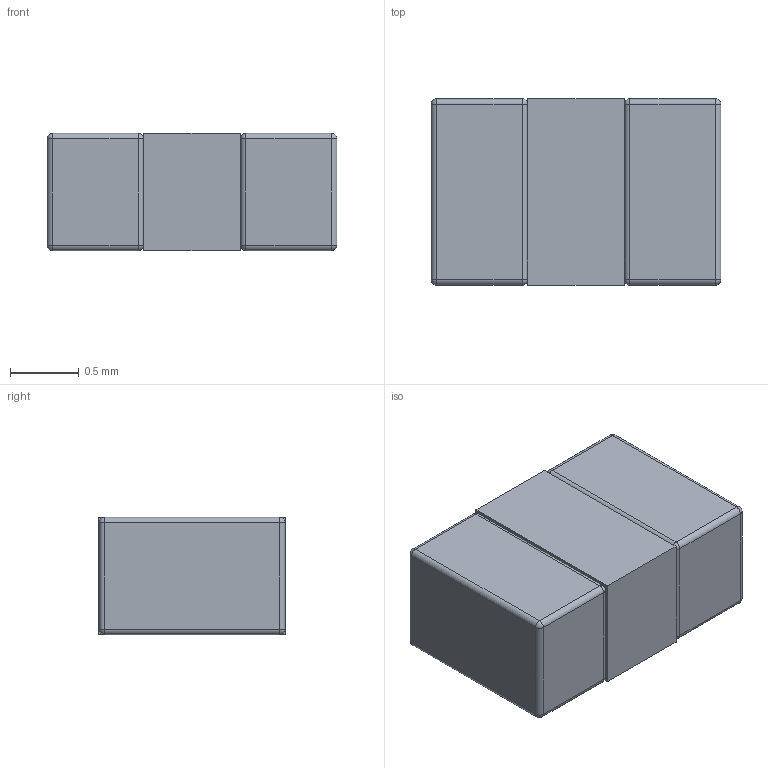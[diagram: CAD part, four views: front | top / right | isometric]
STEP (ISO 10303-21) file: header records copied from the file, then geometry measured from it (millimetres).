
FILE_DESCRIPTION(/* description */ (''),/* implementation_level */ '2;1');
FILE_NAME(/* name */ 'Z:/worker/forge-atf/tmp/job-1/194/output/b9eaf2d1-6143-4585-b496-459ec0e56406/chip_1625425812883.stp',/* time_stamp */ '2021-07-04T19:10:16+00:00',/* author */ (''),/* organization */ (''),/* preprocessor_version */ 'ST-DEVELOPER v18.1',/* originating_system */ 'ASM',/* authorisation */ '');
FILE_SCHEMA (('AUTOMOTIVE_DESIGN { 1 0 10303 214 3 1 1 }'));
Length unit declared in the file: millimetre
Products named in the file (1): chip_1625425812883
Bounding box: 2.1 x 1.35 x 0.85 mm (x, y, z)
Volume: 2.4 mm3; surface area: 11.8 mm2
Topology: 1 solids, 1 shells, 56 faces, 108 edges, 56 vertices
Faces by surface type: cylinder 24, sphere 16, plane 16
Entity records: 1459 total; most frequent: DIRECTION 270, CARTESIAN_POINT 221, ORIENTED_EDGE 216, EDGE_CURVE 108, AXIS2_PLACEMENT_3D 105, LINE 60, VECTOR 60, EDGE_LOOP 58
